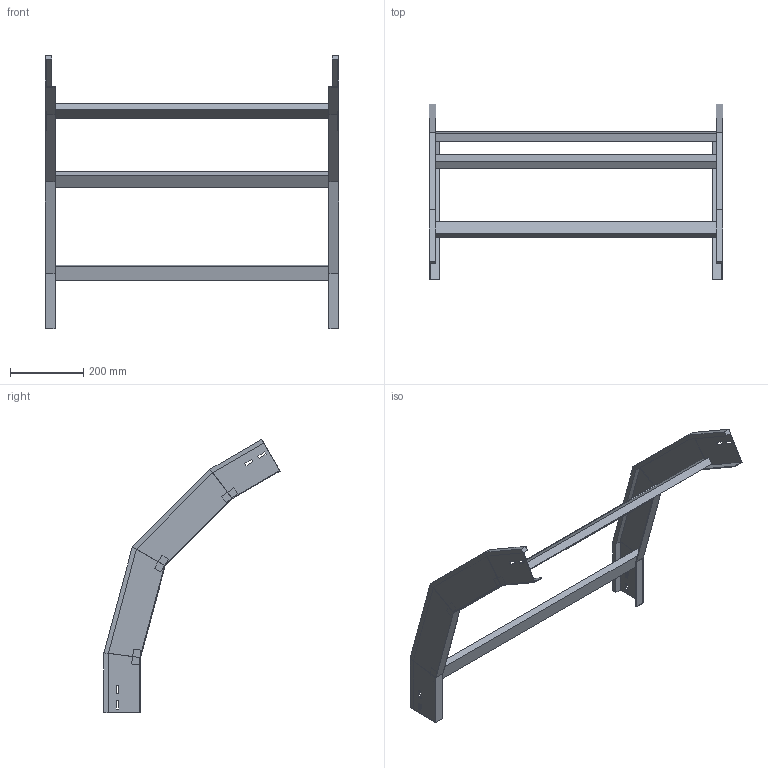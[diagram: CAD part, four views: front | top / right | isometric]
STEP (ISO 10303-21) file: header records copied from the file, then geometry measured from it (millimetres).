
FILE_DESCRIPTION (( 'STEP AP214' ), '1' );
FILE_NAME ('41B5D800.step', '2025-02-21T14:56:19', ( '' ), ( '' ), 'SwSTEP 2.0', 'SolidWorks 2023', '' );
FILE_SCHEMA (( 'AUTOMOTIVE_DESIGN' ));
Length unit declared in the file: millimetre
Products named in the file (3): 41B5D800; LONGH.DISCESA_60°_H100_R500; TRAVERSINO_800
Assembly tree (5 placements, depth 2):
  41B5D800
    LONGH.DISCESA_60°_H100_R500  x2
    TRAVERSINO_800  x3
Bounding box: 800 x 480.08 x 744.92 mm (x, y, z)
Volume: 2714636.7 mm3; surface area: 790109.5 mm2
Topology: 5 solids, 5 shells, 118 faces, 276 edges, 168 vertices
Faces by surface type: plane 118
Entity records: 1672 total; most frequent: CARTESIAN_POINT 276, ORIENTED_EDGE 264, DIRECTION 260, EDGE_CURVE 132, LINE 132, VECTOR 132, VERTEX_POINT 80, AXIS2_PLACEMENT_3D 64
